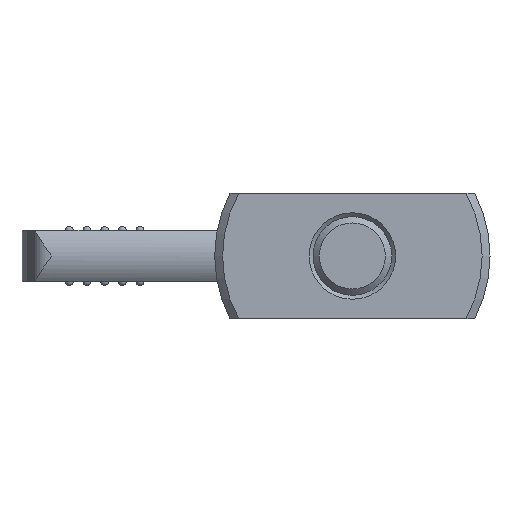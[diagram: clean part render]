
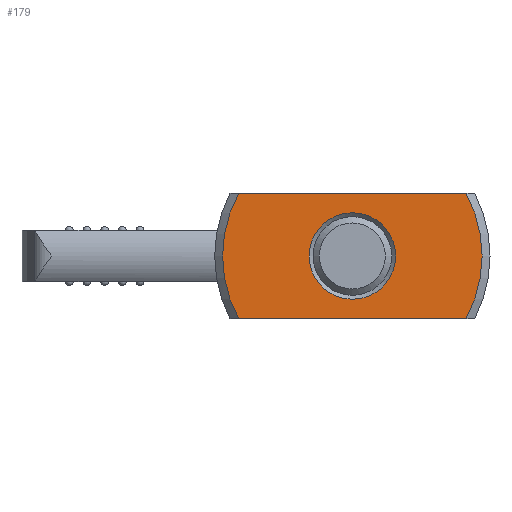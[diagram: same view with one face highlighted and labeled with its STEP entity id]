
A CAD part, front view. The second image highlights one B-rep face of the part: STEP entity #179.
In plain terms, the highlighted planar face has unit normal (0, -1, 0).
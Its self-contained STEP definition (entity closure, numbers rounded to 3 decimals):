
#179 = ADVANCED_FACE( '', ( #299, #300 ), #301, .F. );
#299 = FACE_BOUND( '', #547, .T. );
#300 = FACE_OUTER_BOUND( '', #548, .T. );
#301 = PLANE( '', #549 );
#547 = EDGE_LOOP( '', ( #838 ) );
#548 = EDGE_LOOP( '', ( #839, #840, #841, #842 ) );
#549 = AXIS2_PLACEMENT_3D( '', #843, #844, #845 );
#838 = ORIENTED_EDGE( '', *, *, #1497, .F. );
#839 = ORIENTED_EDGE( '', *, *, #1504, .T. );
#840 = ORIENTED_EDGE( '', *, *, #1505, .T. );
#841 = ORIENTED_EDGE( '', *, *, #1506, .T. );
#842 = ORIENTED_EDGE( '', *, *, #1507, .T. );
#843 = CARTESIAN_POINT( '', ( 16.5, 0., 0. ) );
#844 = DIRECTION( '', ( 0., 1., 0. ) );
#845 = DIRECTION( '', ( 0., 0., 1. ) );
#1497 = EDGE_CURVE( '', #1719, #1719, #1720, .T. );
#1504 = EDGE_CURVE( '', #1733, #1734, #1735, .T. );
#1505 = EDGE_CURVE( '', #1734, #1736, #1737, .T. );
#1506 = EDGE_CURVE( '', #1736, #1738, #1739, .T. );
#1507 = EDGE_CURVE( '', #1738, #1733, #1740, .T. );
#1719 = VERTEX_POINT( '', #2230 );
#1720 = CIRCLE( '', #2231, 5.5 );
#1733 = VERTEX_POINT( '', #2244 );
#1734 = VERTEX_POINT( '', #2245 );
#1735 = CIRCLE( '', #2246, 16.5 );
#1736 = VERTEX_POINT( '', #2247 );
#1737 = LINE( '', #2248, #2249 );
#1738 = VERTEX_POINT( '', #2250 );
#1739 = CIRCLE( '', #2251, 16.5 );
#1740 = LINE( '', #2252, #2253 );
#2230 = CARTESIAN_POINT( '', ( 0., 0., -5.5 ) );
#2231 = AXIS2_PLACEMENT_3D( '', #2740, #2741, #2742 );
#2244 = CARTESIAN_POINT( '', ( -14.431, 0., 8. ) );
#2245 = CARTESIAN_POINT( '', ( -14.431, 0., -8. ) );
#2246 = AXIS2_PLACEMENT_3D( '', #2761, #2762, #2763 );
#2247 = CARTESIAN_POINT( '', ( 14.431, 0., -8. ) );
#2248 = CARTESIAN_POINT( '', ( 16.5, 0., -8. ) );
#2249 = VECTOR( '', #2764, 1000. );
#2250 = CARTESIAN_POINT( '', ( 14.431, 0., 8. ) );
#2251 = AXIS2_PLACEMENT_3D( '', #2765, #2766, #2767 );
#2252 = CARTESIAN_POINT( '', ( 16.5, 0., 8. ) );
#2253 = VECTOR( '', #2768, 1000. );
#2740 = CARTESIAN_POINT( '', ( 0., 0., 0. ) );
#2741 = DIRECTION( '', ( 0., -1., 0. ) );
#2742 = DIRECTION( '', ( 0., 0., -1. ) );
#2761 = CARTESIAN_POINT( '', ( 0., 0., 0. ) );
#2762 = DIRECTION( '', ( 0., -1., 0. ) );
#2763 = DIRECTION( '', ( 0., 0., -1. ) );
#2764 = DIRECTION( '', ( 1., 0., 0. ) );
#2765 = CARTESIAN_POINT( '', ( 0., 0., 0. ) );
#2766 = DIRECTION( '', ( 0., -1., 0. ) );
#2767 = DIRECTION( '', ( 0., 0., -1. ) );
#2768 = DIRECTION( '', ( -1., 0., 0. ) );
